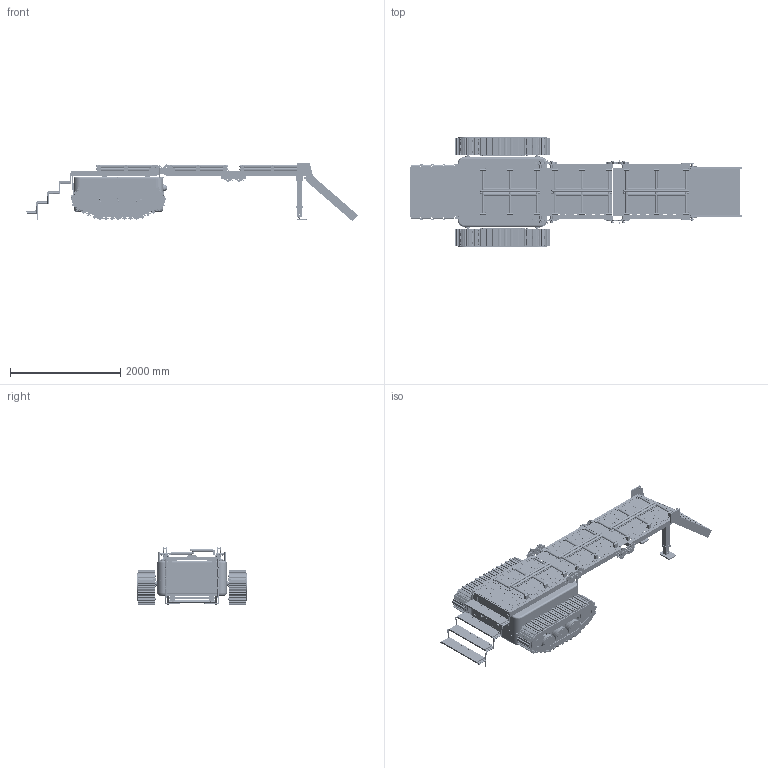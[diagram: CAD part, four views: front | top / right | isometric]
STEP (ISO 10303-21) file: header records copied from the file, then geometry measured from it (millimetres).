
FILE_DESCRIPTION(('Open CASCADE Model'),'2;1');
FILE_NAME('Open CASCADE Shape Model','2026-11-24T20:13:47',('Author'),( 'Open CASCADE'),'Open CASCADE STEP processor 7.9','Open CASCADE 7.9' ,'Unknown');
FILE_SCHEMA(('AUTOMOTIVE_DESIGN { 1 0 10303 214 1 1 1 1 }'));
Length unit declared in the file: centimetre
Products named in the file (676): AKORA_C11_SUPPORT_LEGS_OPEN; 01_MAIN_BODY; BODY_LOWER; BODY_LOWER_TUB; BODY_JOINT_FLANGE_INNER; BODY_UPPER; BODY_UPPER_TUB; BODY_JOINT_BEAD; COVER_GASKET; COVER_GASKET_EPDM_10x8; PEDESTAL_GROMMET_600_L; PEDESTAL_GROMMET_600_R; PEDESTAL_GROMMET_1380_L; PEDESTAL_GROMMET_1380_R; SERVICE_PANEL_REAR_GASKET; COVER_INTERLOCK; COVER_SEAT_RING_FEMALE; COVER_LOCKS; COVER_QUARTER_TURN_STUD_01; COVER_RECEPTACLE_01; COVER_QUARTER_TURN_STUD_02; COVER_RECEPTACLE_02; COVER_QUARTER_TURN_STUD_03; COVER_RECEPTACLE_03; COVER_QUARTER_TURN_STUD_04; COVER_RECEPTACLE_04; COVER_QUARTER_TURN_STUD_05; COVER_RECEPTACLE_05; COVER_QUARTER_TURN_STUD_06; COVER_RECEPTACLE_06; COVER_QUARTER_TURN_STUD_07; COVER_RECEPTACLE_07; COVER_QUARTER_TURN_STUD_08; COVER_RECEPTACLE_08; COVER_QUARTER_TURN_STUD_09; COVER_RECEPTACLE_09; COVER_QUARTER_TURN_STUD_10; COVER_RECEPTACLE_10; INTERNAL_FRAME; FRAME_RAIL_L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
Assembly tree (743 placements, depth 5):
  AKORA_C11_SUPPORT_LEGS_OPEN
    01_MAIN_BODY
      BODY_LOWER
        BODY_LOWER_TUB
        BODY_JOINT_FLANGE_INNER
      BODY_UPPER
        BODY_UPPER_TUB
        BODY_JOINT_BEAD
      COVER_GASKET
        COVER_GASKET_EPDM_10x8
        PEDESTAL_GROMMET_600_L
        PEDESTAL_GROMMET_600_R
        PEDESTAL_GROMMET_1380_L
        PEDESTAL_GROMMET_1380_R
        SERVICE_PANEL_REAR_GASKET
      COVER_INTERLOCK
        COVER_SEAT_RING_FEMALE
      COVER_LOCKS
        COVER_QUARTER_TURN_STUD_01
        COVER_RECEPTACLE_01
        COVER_QUARTER_TURN_STUD_02
        COVER_RECEPTACLE_02
        COVER_QUARTER_TURN_STUD_03
        COVER_RECEPTACLE_03
        COVER_QUARTER_TURN_STUD_04
        COVER_RECEPTACLE_04
        COVER_QUARTER_TURN_STUD_05
        COVER_RECEPTACLE_05
        COVER_QUARTER_TURN_STUD_06
        COVER_RECEPTACLE_06
        COVER_QUARTER_TURN_STUD_07
        COVER_RECEPTACLE_07
        COVER_QUARTER_TURN_STUD_08
        COVER_RECEPTACLE_08
        COVER_QUARTER_TURN_STUD_09
        COVER_RECEPTACLE_09
        COVER_QUARTER_TURN_STUD_10
        COVER_RECEPTACLE_10
      INTERNAL_FRAME
        FRAME_RAIL_L
        FRAME_RAIL_R
        FRAME_CROSS_1
        FRAME_CROSS_2
        FRAME_CROSS_3
        FRAME_CROSS_4
        FRAME_CROSS_5
        TRACK_MOTOR_PLATE_L
        TRACK_MOTOR_PLATE_R
      MOUNTING_BRACKETS
        FRAME_WALL_BRACKET_L_400
        FRAME_WALL_BRACKET_L_1300
        FRAME_WALL_BRACKET_R_400
        FRAME_WALL_BRACKET_R_1300
        P1_PEDESTAL_600_L
        P1_PEDESTAL_600_R
        P1_PEDESTAL_1380_L
        P1_PEDESTAL_1380_R
        REAR_LANDING_BRACKET_L
        REAR_LANDING_BRACKET_R
      SERVICE_PANELS
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Bounding box: 6027.52 x 1994 x 1067.15 mm (x, y, z)
Volume: 628183892.7 mm3; surface area: 87864523.7 mm2
Topology: 1494 solids, 1498 shells, 16526 faces, 39817 edges, 26536 vertices
Faces by surface type: plane 14101, cylinder 2385, sphere 22, torus 16, revolution 2
Full cylindrical faces by diameter (mm): 8 x18, 9 x20, 9.2 x10, 10 x150, 10.5 x4, 12 x34, 13 x4, 14 x4, 16 x36, 17 x8, 18 x4, 20 x15, 22 x12, 24 x39, 25 x16, 28 x34, 30 x64, 30.6 x40, 32 x22, 34 x36, 36 x4, 37 x54, 40 x96, 41 x8, 42 x54, 44 x11, 48 x24, 56 x2, 60 x5, 62 x4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
Entity records: 931551 total; most frequent: CARTESIAN_POINT 190398, DIRECTION 134825, LINE 95116, VECTOR 95116, ORIENTED_EDGE 69780, PCURVE 69764, DEFINITIONAL_REPRESENTATION 69764, EDGE_CURVE 34882
